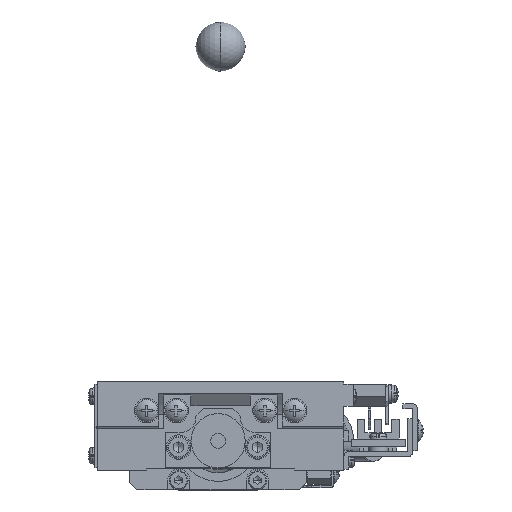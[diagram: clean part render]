
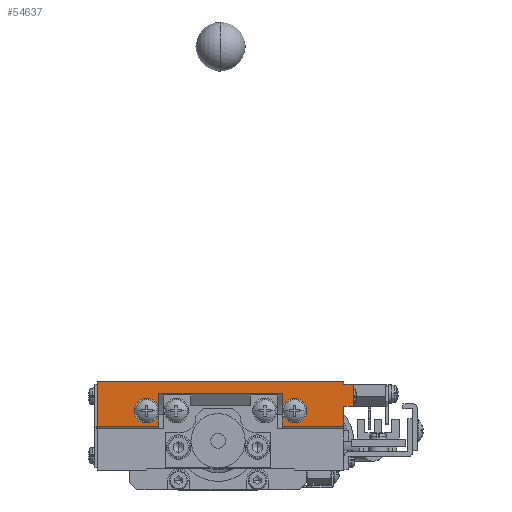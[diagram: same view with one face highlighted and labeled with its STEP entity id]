
A CAD part, left-side view. The second image highlights one B-rep face of the part: STEP entity #54637.
In plain terms, the highlighted planar face has unit normal (-1, 0, 0).
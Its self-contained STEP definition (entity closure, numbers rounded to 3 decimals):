
#185 = EDGE_CURVE ( 'NONE', #70582, #74138, #20260, .T. ) ;
#1405 = ORIENTED_EDGE ( 'NONE', *, *, #20830, .F. ) ;
#1443 = VERTEX_POINT ( 'NONE', #21280 ) ;
#1738 = CARTESIAN_POINT ( 'NONE',  ( -234.022, -14.556, 102.065 ) ) ;
#3178 = DIRECTION ( 'NONE',  ( 0., 0., 1. ) ) ;
#3181 = VECTOR ( 'NONE', #23945, 1000. ) ;
#3788 = CARTESIAN_POINT ( 'NONE',  ( -234.022, 22.944, 111.11 ) ) ;
#4922 = VERTEX_POINT ( 'NONE', #59342 ) ;
#5047 = ORIENTED_EDGE ( 'NONE', *, *, #31971, .T. ) ;
#5104 = CARTESIAN_POINT ( 'NONE',  ( -234.022, 12.944, 105.218 ) ) ;
#5115 = DIRECTION ( 'NONE',  ( 0., -1., 0. ) ) ;
#6092 = EDGE_CURVE ( 'NONE', #16803, #4922, #21671, .T. ) ;
#6585 = LINE ( 'NONE', #74277, #67431 ) ;
#6629 = VERTEX_POINT ( 'NONE', #56990 ) ;
#6809 = DIRECTION ( 'NONE',  ( 0., 0., 1. ) ) ;
#6927 = CARTESIAN_POINT ( 'NONE',  ( -234.022, -29.056, 110.61 ) ) ;
#7652 = VECTOR ( 'NONE', #17361, 1000. ) ;
#8688 = VECTOR ( 'NONE', #23125, 1000. ) ;
#10280 = CARTESIAN_POINT ( 'NONE',  ( -234.022, -14.556, 105.218 ) ) ;
#10907 = DIRECTION ( 'NONE',  ( 0., 1., 0. ) ) ;
#12544 = AXIS2_PLACEMENT_3D ( 'NONE', #39416, #22181, #28600 ) ;
#14052 = CARTESIAN_POINT ( 'NONE',  ( -234.022, 10.444, 108.399 ) ) ;
#14069 = AXIS2_PLACEMENT_3D ( 'NONE', #5104, #46401, #45386 ) ;
#15178 = ORIENTED_EDGE ( 'NONE', *, *, #33399, .F. ) ;
#15771 = EDGE_CURVE ( 'NONE', #6629, #29003, #6585, .T. ) ;
#16297 = ORIENTED_EDGE ( 'NONE', *, *, #17548, .F. ) ;
#16803 = VERTEX_POINT ( 'NONE', #73862 ) ;
#16999 = VERTEX_POINT ( 'NONE', #71688 ) ;
#17361 = DIRECTION ( 'NONE',  ( 0., 0., 1. ) ) ;
#17548 = EDGE_CURVE ( 'NONE', #24655, #29232, #47910, .T. ) ;
#18001 = DIRECTION ( 'NONE',  ( 0., 0., 1. ) ) ;
#18690 = LINE ( 'NONE', #23062, #7652 ) ;
#19165 = DIRECTION ( 'NONE',  ( -1., 0., 0. ) ) ;
#19314 = ORIENTED_EDGE ( 'NONE', *, *, #46693, .F. ) ;
#20260 = LINE ( 'NONE', #69417, #68232 ) ;
#20830 = EDGE_CURVE ( 'NONE', #6629, #16999, #71460, .T. ) ;
#20936 = DIRECTION ( 'NONE',  ( 0., -1., 0. ) ) ;
#21280 = CARTESIAN_POINT ( 'NONE',  ( -234.022, -27.056, 106.11 ) ) ;
#21671 = LINE ( 'NONE', #46558, #8688 ) ;
#21852 = AXIS2_PLACEMENT_3D ( 'NONE', #42046, #57776, #34345 ) ;
#22181 = DIRECTION ( 'NONE',  ( -1., 0., 0. ) ) ;
#22385 = ORIENTED_EDGE ( 'NONE', *, *, #185, .T. ) ;
#22463 = ORIENTED_EDGE ( 'NONE', *, *, #65301, .T. ) ;
#22566 = DIRECTION ( 'NONE',  ( 0., 1., 0. ) ) ;
#23062 = CARTESIAN_POINT ( 'NONE',  ( -234.022, -27.056, 102.065 ) ) ;
#23102 = EDGE_CURVE ( 'NONE', #74931, #44455, #47403, .T. ) ;
#23125 = DIRECTION ( 'NONE',  ( 0., 1., 0. ) ) ;
#23512 = VERTEX_POINT ( 'NONE', #1738 ) ;
#23934 = VECTOR ( 'NONE', #76087, 1000. ) ;
#23945 = DIRECTION ( 'NONE',  ( 0., 1., 0. ) ) ;
#24655 = VERTEX_POINT ( 'NONE', #61416 ) ;
#25720 = CARTESIAN_POINT ( 'NONE',  ( -234.022, -14.556, 98.11 ) ) ;
#26731 = LINE ( 'NONE', #36217, #54404 ) ;
#27127 = LINE ( 'NONE', #62787, #35419 ) ;
#28600 = DIRECTION ( 'NONE',  ( 0., 1., 0. ) ) ;
#28721 = ORIENTED_EDGE ( 'NONE', *, *, #15771, .T. ) ;
#29003 = VERTEX_POINT ( 'NONE', #44328 ) ;
#29232 = VERTEX_POINT ( 'NONE', #10280 ) ;
#29718 = EDGE_CURVE ( 'NONE', #16999, #74138, #31312, .T. ) ;
#31312 = LINE ( 'NONE', #40350, #23934 ) ;
#31971 = EDGE_CURVE ( 'NONE', #1443, #51571, #74605, .T. ) ;
#32625 = ORIENTED_EDGE ( 'NONE', *, *, #29718, .F. ) ;
#32923 = VERTEX_POINT ( 'NONE', #62420 ) ;
#33399 = EDGE_CURVE ( 'NONE', #23512, #29232, #45036, .T. ) ;
#34345 = DIRECTION ( 'NONE',  ( 0., 1., 0. ) ) ;
#35102 = AXIS2_PLACEMENT_3D ( 'NONE', #71303, #53328, #18001 ) ;
#35333 = CARTESIAN_POINT ( 'NONE',  ( -234.022, -29.056, 106.11 ) ) ;
#35419 = VECTOR ( 'NONE', #3178, 1000. ) ;
#35484 = EDGE_CURVE ( 'NONE', #32923, #29003, #56707, .T. ) ;
#35715 = DIRECTION ( 'NONE',  ( 0., 0., 1. ) ) ;
#36128 = CARTESIAN_POINT ( 'NONE',  ( -234.022, -27.056, 111.11 ) ) ;
#36217 = CARTESIAN_POINT ( 'NONE',  ( -234.022, -27.056, 102.065 ) ) ;
#36274 = EDGE_CURVE ( 'NONE', #29003, #4922, #55668, .T. ) ;
#37273 = ORIENTED_EDGE ( 'NONE', *, *, #39208, .T. ) ;
#39208 = EDGE_CURVE ( 'NONE', #74931, #70582, #18690, .T. ) ;
#39416 = CARTESIAN_POINT ( 'NONE',  ( -234.022, 12.944, 105.218 ) ) ;
#39990 = VECTOR ( 'NONE', #61207, 1000. ) ;
#40350 = CARTESIAN_POINT ( 'NONE',  ( -234.022, 22.944, 102.065 ) ) ;
#40534 = VERTEX_POINT ( 'NONE', #66396 ) ;
#40864 = CARTESIAN_POINT ( 'NONE',  ( -234.022, -29.056, 106.11 ) ) ;
#41215 = CARTESIAN_POINT ( 'NONE',  ( -234.022, -27.056, 106.11 ) ) ;
#41238 = VECTOR ( 'NONE', #10907, 1000. ) ;
#41646 = EDGE_CURVE ( 'NONE', #29232, #24655, #70959, .T. ) ;
#42046 = CARTESIAN_POINT ( 'NONE',  ( -234.022, -17.056, 105.218 ) ) ;
#42341 = DIRECTION ( 'NONE',  ( 0., 1., 0. ) ) ;
#42442 = CARTESIAN_POINT ( 'NONE',  ( -234.022, -27.056, 110.61 ) ) ;
#42544 = EDGE_LOOP ( 'NONE', ( #32625, #1405, #28721, #70519, #52950, #67293, #70384, #62438, #16297, #75697, #15178, #19314, #22463, #5047, #53366, #71177, #37273, #22385 ) ) ;
#44328 = CARTESIAN_POINT ( 'NONE',  ( -234.022, 10.444, 105.218 ) ) ;
#44455 = VERTEX_POINT ( 'NONE', #6927 ) ;
#45036 = LINE ( 'NONE', #25720, #76206 ) ;
#45386 = DIRECTION ( 'NONE',  ( 0., 1., 0. ) ) ;
#45987 = DIRECTION ( 'NONE',  ( 0., 0., 1. ) ) ;
#46203 = FACE_OUTER_BOUND ( 'NONE', #42544, .T. ) ;
#46401 = DIRECTION ( 'NONE',  ( -1., 0., 0. ) ) ;
#46558 = CARTESIAN_POINT ( 'NONE',  ( -234.022, -14.556, 108.718 ) ) ;
#46693 = EDGE_CURVE ( 'NONE', #40534, #23512, #53253, .T. ) ;
#46734 = CARTESIAN_POINT ( 'NONE',  ( -234.022, -27.056, 102.065 ) ) ;
#47403 = LINE ( 'NONE', #49559, #51105 ) ;
#47910 = CIRCLE ( 'NONE', #53551, 2.5 ) ;
#47949 = CIRCLE ( 'NONE', #14069, 2.5 ) ;
#49559 = CARTESIAN_POINT ( 'NONE',  ( -234.022, -27.056, 110.61 ) ) ;
#50371 = EDGE_CURVE ( 'NONE', #29232, #16803, #27127, .T. ) ;
#51105 = VECTOR ( 'NONE', #20936, 1000. ) ;
#51571 = VERTEX_POINT ( 'NONE', #35333 ) ;
#52950 = ORIENTED_EDGE ( 'NONE', *, *, #71015, .F. ) ;
#53253 = LINE ( 'NONE', #46734, #41238 ) ;
#53328 = DIRECTION ( 'NONE',  ( -1., 0., 0. ) ) ;
#53337 = CARTESIAN_POINT ( 'NONE',  ( -234.022, 15.944, 102.065 ) ) ;
#53366 = ORIENTED_EDGE ( 'NONE', *, *, #69343, .T. ) ;
#53551 = AXIS2_PLACEMENT_3D ( 'NONE', #71717, #19165, #42341 ) ;
#54404 = VECTOR ( 'NONE', #6809, 1000. ) ;
#54637 = ADVANCED_FACE ( 'NONE', ( #46203 ), #58708, .T. ) ;
#55289 = VECTOR ( 'NONE', #5115, 1000. ) ;
#55668 = LINE ( 'NONE', #14052, #39990 ) ;
#56707 = CIRCLE ( 'NONE', #12544, 2.5 ) ;
#56990 = CARTESIAN_POINT ( 'NONE',  ( -234.022, 10.444, 102.065 ) ) ;
#57776 = DIRECTION ( 'NONE',  ( -1., 0., 0. ) ) ;
#58708 = PLANE ( 'NONE',  #35102 ) ;
#59342 = CARTESIAN_POINT ( 'NONE',  ( -234.022, 10.444, 108.718 ) ) ;
#61143 = LINE ( 'NONE', #40864, #67545 ) ;
#61207 = DIRECTION ( 'NONE',  ( 0., 0., 1. ) ) ;
#61416 = CARTESIAN_POINT ( 'NONE',  ( -234.022, -19.556, 105.218 ) ) ;
#62420 = CARTESIAN_POINT ( 'NONE',  ( -234.022, 15.444, 105.218 ) ) ;
#62438 = ORIENTED_EDGE ( 'NONE', *, *, #50371, .F. ) ;
#62787 = CARTESIAN_POINT ( 'NONE',  ( -234.022, -14.556, 108.399 ) ) ;
#65301 = EDGE_CURVE ( 'NONE', #40534, #1443, #26731, .T. ) ;
#66396 = CARTESIAN_POINT ( 'NONE',  ( -234.022, -27.056, 102.065 ) ) ;
#67293 = ORIENTED_EDGE ( 'NONE', *, *, #36274, .T. ) ;
#67431 = VECTOR ( 'NONE', #45987, 1000. ) ;
#67545 = VECTOR ( 'NONE', #35715, 1000. ) ;
#68232 = VECTOR ( 'NONE', #22566, 1000. ) ;
#69343 = EDGE_CURVE ( 'NONE', #51571, #44455, #61143, .T. ) ;
#69417 = CARTESIAN_POINT ( 'NONE',  ( -234.022, 15.944, 111.11 ) ) ;
#70384 = ORIENTED_EDGE ( 'NONE', *, *, #6092, .F. ) ;
#70519 = ORIENTED_EDGE ( 'NONE', *, *, #35484, .F. ) ;
#70582 = VERTEX_POINT ( 'NONE', #36128 ) ;
#70959 = CIRCLE ( 'NONE', #21852, 2.5 ) ;
#71015 = EDGE_CURVE ( 'NONE', #29003, #32923, #47949, .T. ) ;
#71177 = ORIENTED_EDGE ( 'NONE', *, *, #23102, .F. ) ;
#71303 = CARTESIAN_POINT ( 'NONE',  ( -234.022, 15.944, 102.065 ) ) ;
#71460 = LINE ( 'NONE', #53337, #3181 ) ;
#71688 = CARTESIAN_POINT ( 'NONE',  ( -234.022, 22.944, 102.065 ) ) ;
#71717 = CARTESIAN_POINT ( 'NONE',  ( -234.022, -17.056, 105.218 ) ) ;
#73862 = CARTESIAN_POINT ( 'NONE',  ( -234.022, -14.556, 108.718 ) ) ;
#74138 = VERTEX_POINT ( 'NONE', #3788 ) ;
#74277 = CARTESIAN_POINT ( 'NONE',  ( -234.022, 10.444, 98.11 ) ) ;
#74592 = DIRECTION ( 'NONE',  ( 0., 0., 1. ) ) ;
#74605 = LINE ( 'NONE', #41215, #55289 ) ;
#74931 = VERTEX_POINT ( 'NONE', #42442 ) ;
#75697 = ORIENTED_EDGE ( 'NONE', *, *, #41646, .F. ) ;
#76087 = DIRECTION ( 'NONE',  ( 0., 0., 1. ) ) ;
#76206 = VECTOR ( 'NONE', #74592, 1000. ) ;
